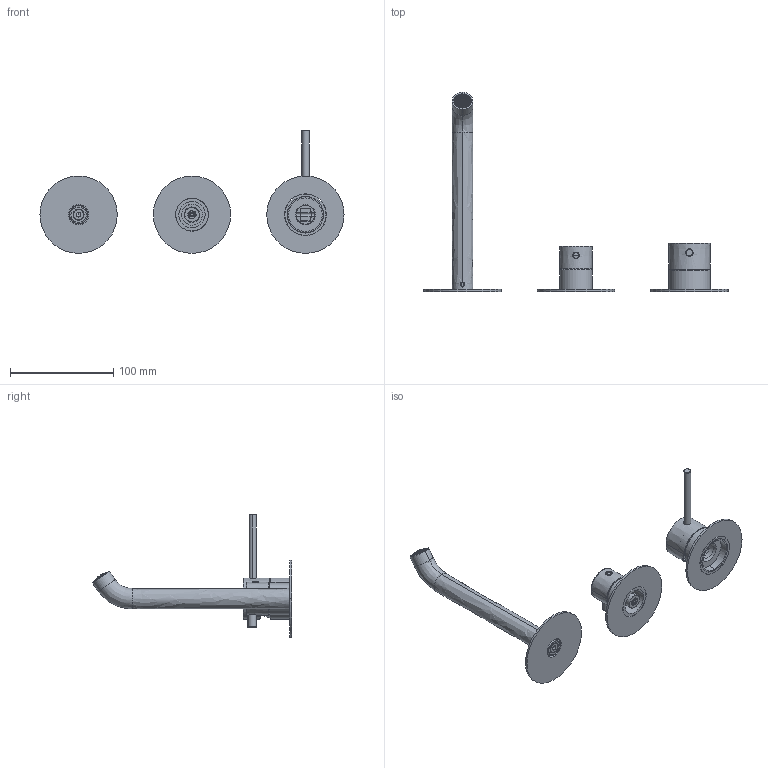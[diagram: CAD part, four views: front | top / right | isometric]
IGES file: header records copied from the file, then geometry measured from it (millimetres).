
Start section:  PTC IGES file: 69558v3.igs
Global section: file name: 69558v3.igs; native system: Creo Parametric by PTC Inc.; preprocessor: 2022014; author: carloff; organization: Unknown; date: 20250212.161415; units: millimetre
Bounding box: 295 x 193.13 x 119 mm (x, y, z)
Surface area: 97962.9 mm2 (no closed solid volume)
Topology: 0 solids, 0 shells, 3403 faces, 19896 edges, 19880 vertices
Faces by surface type: bspline 2226, revolution 1174, extrusion 3
